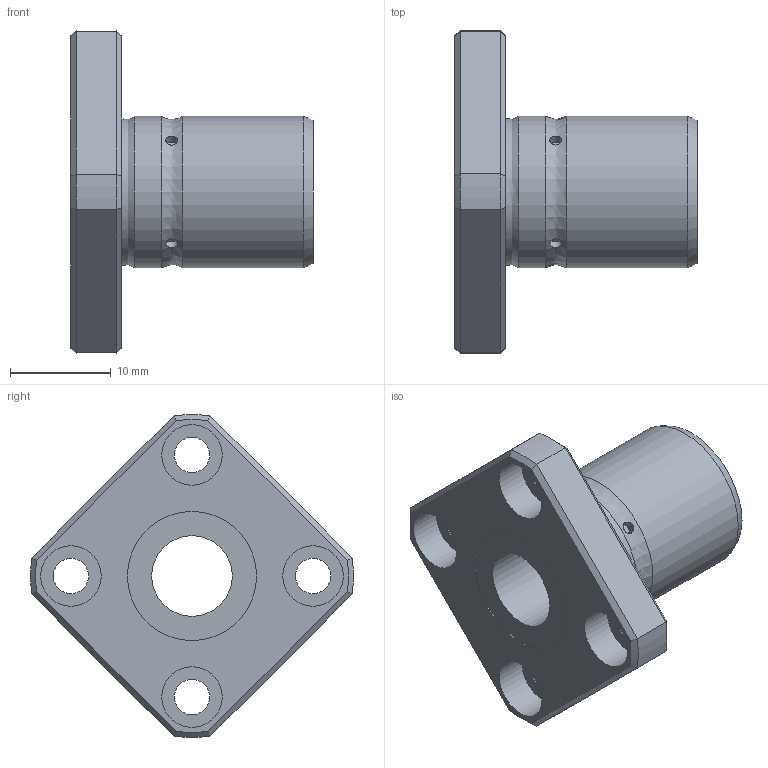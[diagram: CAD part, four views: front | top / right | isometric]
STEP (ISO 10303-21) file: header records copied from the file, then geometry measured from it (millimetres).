
FILE_DESCRIPTION((''),'2;1');
FILE_NAME('D:\製品 (図面)\カタログ用3D\リニアベアリング関連\STEP形式\LFK-OH\LFK8-OH.stp','2010-06-04T08:54:54',('Tsuchiya'),(''),'Autodesk Inventor 10','Autodesk Inventor 10','');
FILE_SCHEMA(('AUTOMOTIVE_DESIGN { 1 0 10303 214 1 1 1 1 }'));
Length unit declared in the file: millimetre
Products named in the file (1): LFK8-OH
Bounding box: 24 x 31.98 x 31.98 mm (x, y, z)
Volume: 4701.8 mm3; surface area: 3295.7 mm2
Topology: 1 solids, 1 shells, 57 faces, 116 edges, 72 vertices
Faces by surface type: cylinder 21, plane 21, cone 8, bspline 6, torus 1
Full cylindrical faces by diameter (mm): 3.5 x4, 6 x4, 8 x1, 12.8 x2, 15 x2
Entity records: 1905 total; most frequent: CARTESIAN_POINT 802, DIRECTION 216, ORIENTED_EDGE 184, EDGE_LOOP 98, AXIS2_PLACEMENT_3D 96, EDGE_CURVE 92, VERTEX_POINT 68, FACE_OUTER_BOUND 57
